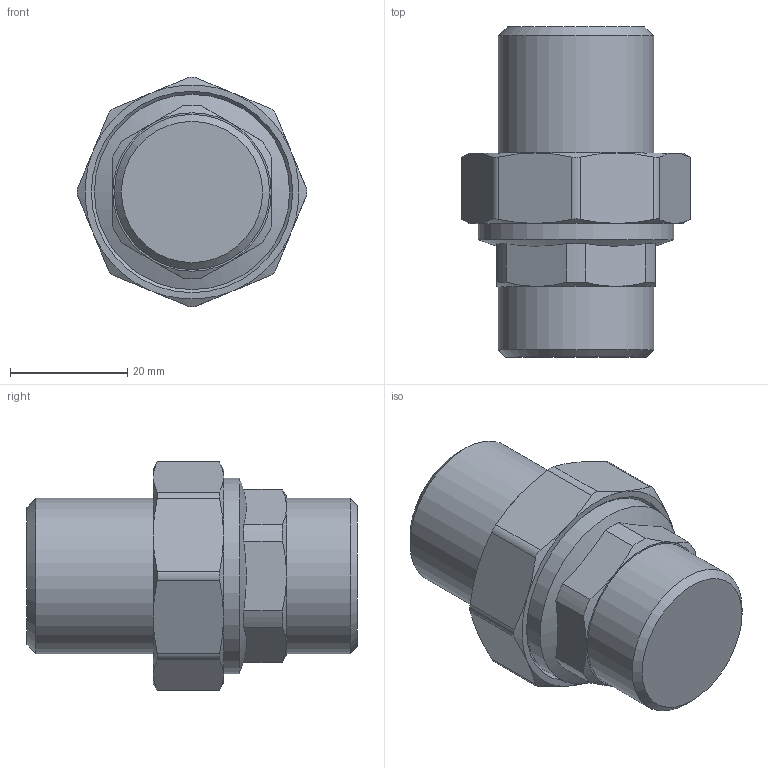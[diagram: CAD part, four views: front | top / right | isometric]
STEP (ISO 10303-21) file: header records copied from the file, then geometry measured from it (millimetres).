
FILE_DESCRIPTION(('STEP AP203'), '1');
FILE_NAME('覆.302612.026.000 捘 - VTr.728.N.0005', '2024-07-19T07:14:27', ('Boss'), (''), 'C3D Converter', 'C3D Toolkit', '');
FILE_SCHEMA(('CONFIG_CONTROL_DESIGN'));
Length unit declared in the file: millimetre
Products named in the file (1): ВР.302612.026.000 СБ
Bounding box: 39.18 x 56.24 x 39.18 mm (x, y, z)
Volume: 38852.4 mm3; surface area: 7562 mm2
Topology: 1 solids, 1 shells, 62 faces, 144 edges, 88 vertices
Faces by surface type: cone 24, plane 20, cylinder 18
Full cylindrical faces by diameter (mm): 26.441 x2, 27 x1, 33.249 x1
Entity records: 3284 total; most frequent: CARTESIAN_POINT 2045, ORIENTED_EDGE 256, DIRECTION 225, EDGE_CURVE 128, AXIS2_PLACEMENT_3D 98, VERTEX_POINT 84, EDGE_LOOP 70, B_SPLINE_CURVE_WITH_KNOTS 60
